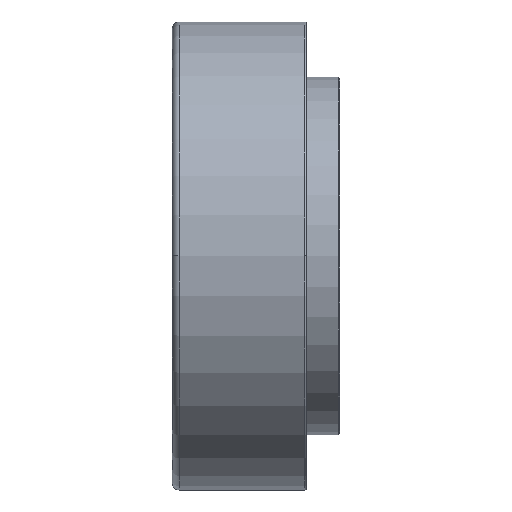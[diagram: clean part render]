
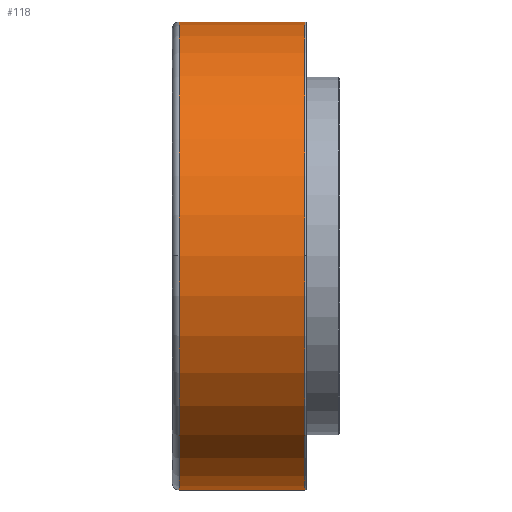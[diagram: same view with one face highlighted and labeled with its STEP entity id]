
A CAD part, top view. The second image highlights one B-rep face of the part: STEP entity #118.
In plain terms, the highlighted cylindrical face has radius 21 mm (diameter 42 mm), a partial arc.
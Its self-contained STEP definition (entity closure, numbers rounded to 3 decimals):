
#118=ADVANCED_FACE('',(#280),#281,.T.);
#280=FACE_OUTER_BOUND('',#580,.T.);
#281=CYLINDRICAL_SURFACE('',#581,21.0);
#580=EDGE_LOOP('',(#1030,#1031,#1032,#1033,#1034,#1035));
#581=AXIS2_PLACEMENT_3D('',#1036,#1037,#1038);
#1030=ORIENTED_EDGE('',*,*,#1849,.F.);
#1031=ORIENTED_EDGE('',*,*,#1850,.T.);
#1032=ORIENTED_EDGE('',*,*,#1851,.T.);
#1033=ORIENTED_EDGE('',*,*,#1852,.F.);
#1034=ORIENTED_EDGE('',*,*,#1853,.F.);
#1035=ORIENTED_EDGE('',*,*,#1845,.F.);
#1036=CARTESIAN_POINT('',(6.24,0.0,0.0));
#1037=DIRECTION('',(1.0,0.0,0.0));
#1038=DIRECTION('',(0.0,1.0,0.0));
#1845=EDGE_CURVE('',#2166,#2168,#2169,.T.);
#1849=EDGE_CURVE('',#2175,#2166,#2176,.T.);
#1850=EDGE_CURVE('',#2175,#2177,#2178,.T.);
#1851=EDGE_CURVE('',#2177,#2179,#2180,.T.);
#1852=EDGE_CURVE('',#2181,#2179,#2182,.T.);
#1853=EDGE_CURVE('',#2168,#2181,#2183,.T.);
#2166=VERTEX_POINT('',#2646);
#2168=VERTEX_POINT('',#2648);
#2169=CIRCLE('',#2649,21.0);
#2175=VERTEX_POINT('',#2655);
#2176=LINE('',#2656,#2657);
#2177=VERTEX_POINT('',#2658);
#2178=CIRCLE('',#2659,21.0);
#2179=VERTEX_POINT('',#2660);
#2180=CIRCLE('',#2661,21.0);
#2181=VERTEX_POINT('',#2662);
#2182=LINE('',#2663,#2664);
#2183=CIRCLE('',#2665,21.0);
#2646=CARTESIAN_POINT('',(11.88,21.0,0.0));
#2648=CARTESIAN_POINT('',(11.88,0.,21.0));
#2649=AXIS2_PLACEMENT_3D('',#4414,#4415,#4416);
#2655=CARTESIAN_POINT('',(0.6,21.0,0.0));
#2656=CARTESIAN_POINT('',(6.24,21.0,0.));
#2657=VECTOR('',#4426,1.0);
#2658=CARTESIAN_POINT('',(0.6,0.,21.0));
#2659=AXIS2_PLACEMENT_3D('',#4427,#4428,#4429);
#2660=CARTESIAN_POINT('',(0.6,-21.0,0.));
#2661=AXIS2_PLACEMENT_3D('',#4430,#4431,#4432);
#2662=CARTESIAN_POINT('',(11.88,-21.0,0.));
#2663=CARTESIAN_POINT('',(6.24,-21.0,0.));
#2664=VECTOR('',#4433,1.0);
#2665=AXIS2_PLACEMENT_3D('',#4434,#4435,#4436);
#4414=CARTESIAN_POINT('',(11.88,0.0,0.0));
#4415=DIRECTION('',(1.0,0.0,0.0));
#4416=DIRECTION('',(0.0,1.0,0.0));
#4426=DIRECTION('',(1.0,0.0,0.0));
#4427=CARTESIAN_POINT('',(0.6,0.0,0.0));
#4428=DIRECTION('',(1.0,0.0,0.0));
#4429=DIRECTION('',(0.0,1.0,0.0));
#4430=CARTESIAN_POINT('',(0.6,0.0,0.0));
#4431=DIRECTION('',(1.0,0.0,0.0));
#4432=DIRECTION('',(0.0,1.0,0.0));
#4433=DIRECTION('',(-1.0,-0.0,-0.0));
#4434=CARTESIAN_POINT('',(11.88,0.0,0.0));
#4435=DIRECTION('',(1.0,0.0,0.0));
#4436=DIRECTION('',(0.0,1.0,0.0));
